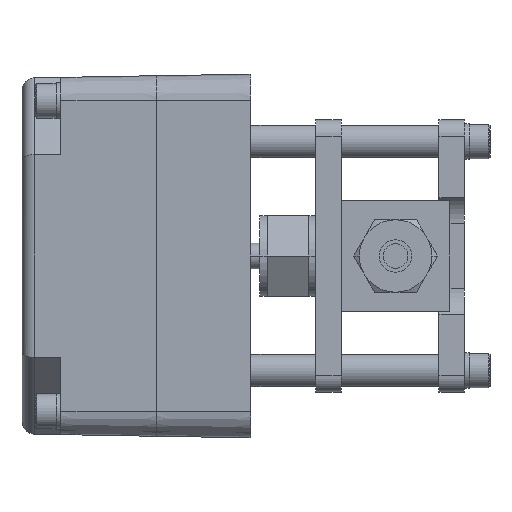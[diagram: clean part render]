
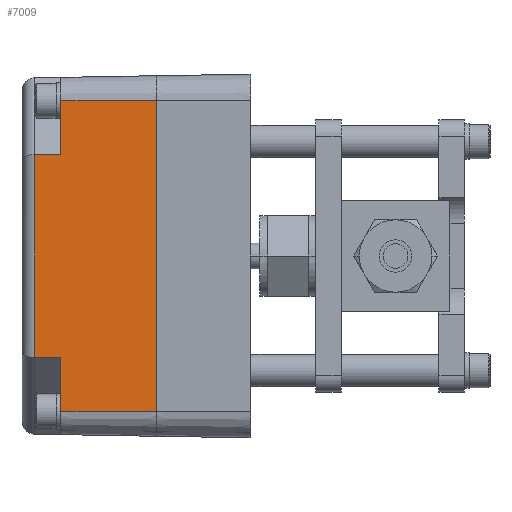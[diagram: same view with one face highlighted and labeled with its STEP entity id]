
A CAD part, left-side view. The second image highlights one B-rep face of the part: STEP entity #7009.
In plain terms, the highlighted planar face has unit normal (-1, 0.018, 0).
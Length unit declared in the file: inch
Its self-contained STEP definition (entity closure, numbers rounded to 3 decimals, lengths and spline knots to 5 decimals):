
#270 = VERTEX_POINT ( 'NONE', #8562 ) ;
#542 = EDGE_CURVE ( 'NONE', #15928, #12609, #23020, .T. ) ;
#1185 = CARTESIAN_POINT ( 'NONE',  ( -1.96309, 0.94175, -0.78351 ) ) ;
#1294 = VERTEX_POINT ( 'NONE', #1185 ) ;
#1469 = ORIENTED_EDGE ( 'NONE', *, *, #17660, .F. ) ;
#2128 = ORIENTED_EDGE ( 'NONE', *, *, #9686, .T. ) ;
#2199 = VECTOR ( 'NONE', #26760, 39.37008 ) ;
#2486 = CARTESIAN_POINT ( 'NONE',  ( -1.96112, 1.05432, 0.78269 ) ) ;
#2928 = AXIS2_PLACEMENT_3D ( 'NONE', #15768, #15772, #15803 ) ;
#2933 = VERTEX_POINT ( 'NONE', #4728 ) ;
#3645 = CARTESIAN_POINT ( 'NONE',  ( -1.96661, 0.74, 0.78496 ) ) ;
#4728 = CARTESIAN_POINT ( 'NONE',  ( -1.97953, 0., 1.19872 ) ) ;
#5277 = ORIENTED_EDGE ( 'NONE', *, *, #30088, .F. ) ;
#6933 = LINE ( 'NONE', #16506, #24958 ) ;
#7009 = ADVANCED_FACE ( 'NONE', ( #15715 ), #15723, .T. ) ;
#7012 = EDGE_LOOP ( 'NONE', ( #25060, #29737, #27367, #1469, #5277, #29818, #2128, #15382 ) ) ;
#8113 = CARTESIAN_POINT ( 'NONE',  ( -1.96661, 0.74, -1.19872 ) ) ;
#8246 = CARTESIAN_POINT ( 'NONE',  ( -1.96661, 0.74, -0.78496 ) ) ;
#8551 = LINE ( 'NONE', #18154, #9175 ) ;
#8562 = CARTESIAN_POINT ( 'NONE',  ( -1.96309, 0.94175, 0.78351 ) ) ;
#8753 = VECTOR ( 'NONE', #29584, 39.37008 ) ;
#9073 = DIRECTION ( 'NONE',  ( 0., 0., 1. ) ) ;
#9175 = VECTOR ( 'NONE', #27684, 39.37008 ) ;
#9590 = VERTEX_POINT ( 'NONE', #21518 ) ;
#9686 = EDGE_CURVE ( 'NONE', #2933, #15928, #20707, .T. ) ;
#9804 = LINE ( 'NONE', #19469, #27874 ) ;
#10432 = LINE ( 'NONE', #20088, #8753 ) ;
#10614 = VECTOR ( 'NONE', #9073, 39.37008 ) ;
#11886 = DIRECTION ( 'NONE',  ( 0.017, 1., -0.007 ) ) ;
#12609 = VERTEX_POINT ( 'NONE', #3645 ) ;
#13942 = CARTESIAN_POINT ( 'NONE',  ( -1.96661, 0.74, 1.19872 ) ) ;
#15088 = VERTEX_POINT ( 'NONE', #8246 ) ;
#15382 = ORIENTED_EDGE ( 'NONE', *, *, #542, .T. ) ;
#15715 = FACE_OUTER_BOUND ( 'NONE', #7012, .T. ) ;
#15723 = PLANE ( 'NONE',  #2928 ) ;
#15768 = CARTESIAN_POINT ( 'NONE',  ( -1.96137, 1.04, -1.19872 ) ) ;
#15772 = DIRECTION ( 'NONE',  ( -1., 0.017, 0. ) ) ;
#15803 = DIRECTION ( 'NONE',  ( -0.017, -1., 0. ) ) ;
#15928 = VERTEX_POINT ( 'NONE', #13942 ) ;
#16396 = VECTOR ( 'NONE', #20670, 39.37008 ) ;
#16506 = CARTESIAN_POINT ( 'NONE',  ( -1.97953, 0., -1.19872 ) ) ;
#17660 = EDGE_CURVE ( 'NONE', #23046, #15088, #21049, .T. ) ;
#18154 = CARTESIAN_POINT ( 'NONE',  ( -1.96309, 0.94175, -1.19872 ) ) ;
#19469 = CARTESIAN_POINT ( 'NONE',  ( -1.96143, 1.03699, -0.78282 ) ) ;
#19927 = EDGE_CURVE ( 'NONE', #9590, #2933, #6933, .T. ) ;
#20088 = CARTESIAN_POINT ( 'NONE',  ( -1.97953, 0., -1.19872 ) ) ;
#20670 = DIRECTION ( 'NONE',  ( 0.017, 1., 0. ) ) ;
#20679 = CARTESIAN_POINT ( 'NONE',  ( -1.97953, 0., 1.19872 ) ) ;
#20707 = LINE ( 'NONE', #20679, #16396 ) ;
#21049 = LINE ( 'NONE', #30581, #10614 ) ;
#21518 = CARTESIAN_POINT ( 'NONE',  ( -1.97953, 0., -1.19872 ) ) ;
#22075 = VECTOR ( 'NONE', #11886, 39.37008 ) ;
#23020 = LINE ( 'NONE', #26755, #2199 ) ;
#23046 = VERTEX_POINT ( 'NONE', #8113 ) ;
#23852 = LINE ( 'NONE', #2486, #22075 ) ;
#24958 = VECTOR ( 'NONE', #26027, 39.37008 ) ;
#25060 = ORIENTED_EDGE ( 'NONE', *, *, #26047, .T. ) ;
#26027 = DIRECTION ( 'NONE',  ( 0., 0., 1. ) ) ;
#26047 = EDGE_CURVE ( 'NONE', #12609, #270, #23852, .T. ) ;
#26755 = CARTESIAN_POINT ( 'NONE',  ( -1.96661, 0.74, -1.19872 ) ) ;
#26760 = DIRECTION ( 'NONE',  ( 0., 0., -1. ) ) ;
#27365 = EDGE_CURVE ( 'NONE', #1294, #15088, #9804, .T. ) ;
#27367 = ORIENTED_EDGE ( 'NONE', *, *, #27365, .T. ) ;
#27684 = DIRECTION ( 'NONE',  ( 0., 0., -1. ) ) ;
#27874 = VECTOR ( 'NONE', #28987, 39.37008 ) ;
#28987 = DIRECTION ( 'NONE',  ( -0.017, -1., -0.007 ) ) ;
#29584 = DIRECTION ( 'NONE',  ( 0.017, 1., 0. ) ) ;
#29737 = ORIENTED_EDGE ( 'NONE', *, *, #30660, .T. ) ;
#29818 = ORIENTED_EDGE ( 'NONE', *, *, #19927, .T. ) ;
#30088 = EDGE_CURVE ( 'NONE', #9590, #23046, #10432, .T. ) ;
#30581 = CARTESIAN_POINT ( 'NONE',  ( -1.96661, 0.74, -1.19872 ) ) ;
#30660 = EDGE_CURVE ( 'NONE', #270, #1294, #8551, .T. ) ;
